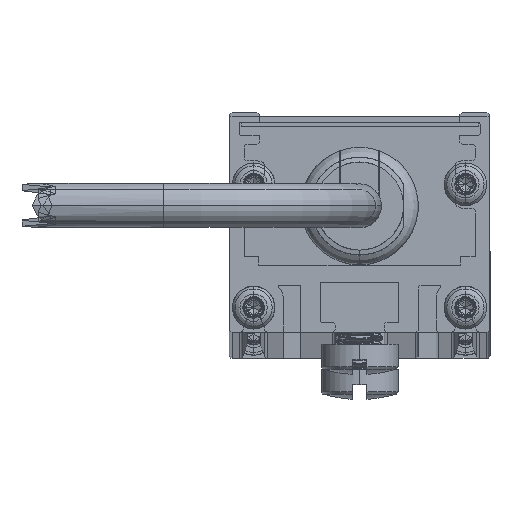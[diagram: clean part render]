
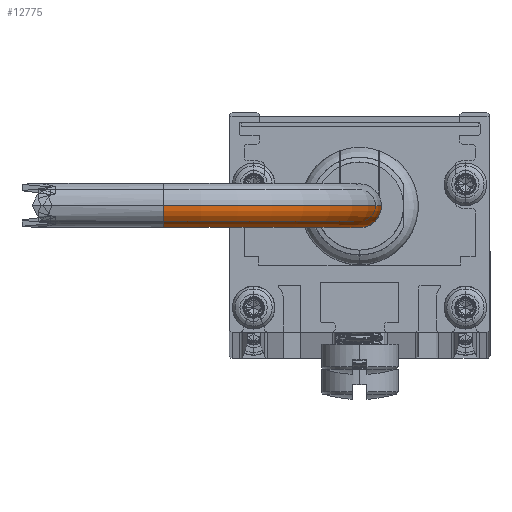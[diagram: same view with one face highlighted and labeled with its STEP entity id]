
A CAD part, top view. The second image highlights one B-rep face of the part: STEP entity #12775.
In plain terms, the highlighted toroidal (fillet/blend) face has major radius 25.4 mm and minor radius 2.845 mm.
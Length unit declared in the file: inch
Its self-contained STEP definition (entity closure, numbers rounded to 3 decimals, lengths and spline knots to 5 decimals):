
#256 = AXIS2_PLACEMENT_3D ( 'NONE', #9993, #16833, #11118 ) ;
#494 = EDGE_CURVE ( 'NONE', #11954, #12383, #9142, .T. ) ;
#1564 = EDGE_CURVE ( 'NONE', #13995, #12383, #1652, .T. ) ;
#1652 = CIRCLE ( 'NONE', #256, 0.112 ) ;
#1911 = CIRCLE ( 'NONE', #4811, 1.112 ) ;
#2027 = CARTESIAN_POINT ( 'NONE',  ( 1., 0., -1. ) ) ;
#2779 = CARTESIAN_POINT ( 'NONE',  ( 1., 0., -1.888 ) ) ;
#3413 = DIRECTION ( 'NONE',  ( 0., 0., 1. ) ) ;
#3837 = VERTEX_POINT ( 'NONE', #11394 ) ;
#3901 = CIRCLE ( 'NONE', #10129, 0.112 ) ;
#4811 = AXIS2_PLACEMENT_3D ( 'NONE', #16969, #7871, #5335 ) ;
#5335 = DIRECTION ( 'NONE',  ( 1., 0., 0. ) ) ;
#6483 = AXIS2_PLACEMENT_3D ( 'NONE', #11516, #17320, #10148 ) ;
#6613 = EDGE_CURVE ( 'NONE', #3837, #13995, #1911, .T. ) ;
#6951 = EDGE_LOOP ( 'NONE', ( #8036, #17469, #8546, #13530 ) ) ;
#7673 = FACE_OUTER_BOUND ( 'NONE', #6951, .T. ) ;
#7871 = DIRECTION ( 'NONE',  ( 0., -1., 0. ) ) ;
#8036 = ORIENTED_EDGE ( 'NONE', *, *, #11718, .F. ) ;
#8546 = ORIENTED_EDGE ( 'NONE', *, *, #1564, .T. ) ;
#8552 = AXIS2_PLACEMENT_3D ( 'NONE', #2027, #14967, #16364 ) ;
#8906 = CARTESIAN_POINT ( 'NONE',  ( 0.112, 0., -1. ) ) ;
#9142 = CIRCLE ( 'NONE', #8552, 0.888 ) ;
#9192 = CARTESIAN_POINT ( 'NONE',  ( 1., 0., -2.112 ) ) ;
#9256 = DIRECTION ( 'NONE',  ( 1., 0., 0. ) ) ;
#9982 = TOROIDAL_SURFACE ( 'NONE', #6483, 1., 0.112 ) ;
#9993 = CARTESIAN_POINT ( 'NONE',  ( 1., 0., -2. ) ) ;
#10129 = AXIS2_PLACEMENT_3D ( 'NONE', #10619, #3413, #9256 ) ;
#10148 = DIRECTION ( 'NONE',  ( 0., 0., -1. ) ) ;
#10619 = CARTESIAN_POINT ( 'NONE',  ( 0., 0., -1. ) ) ;
#11118 = DIRECTION ( 'NONE',  ( 0., 0., 1. ) ) ;
#11394 = CARTESIAN_POINT ( 'NONE',  ( -0.112, 0., -1. ) ) ;
#11516 = CARTESIAN_POINT ( 'NONE',  ( 1., 0., -1. ) ) ;
#11718 = EDGE_CURVE ( 'NONE', #3837, #11954, #3901, .T. ) ;
#11954 = VERTEX_POINT ( 'NONE', #8906 ) ;
#12383 = VERTEX_POINT ( 'NONE', #2779 ) ;
#12775 = ADVANCED_FACE ( 'NONE', ( #7673 ), #9982, .T. ) ;
#13530 = ORIENTED_EDGE ( 'NONE', *, *, #494, .F. ) ;
#13995 = VERTEX_POINT ( 'NONE', #9192 ) ;
#14967 = DIRECTION ( 'NONE',  ( 0., -1., 0. ) ) ;
#16364 = DIRECTION ( 'NONE',  ( 1., 0., 0. ) ) ;
#16833 = DIRECTION ( 'NONE',  ( -1., 0., 0. ) ) ;
#16969 = CARTESIAN_POINT ( 'NONE',  ( 1., 0., -1. ) ) ;
#17320 = DIRECTION ( 'NONE',  ( 0., -1., 0. ) ) ;
#17469 = ORIENTED_EDGE ( 'NONE', *, *, #6613, .T. ) ;
